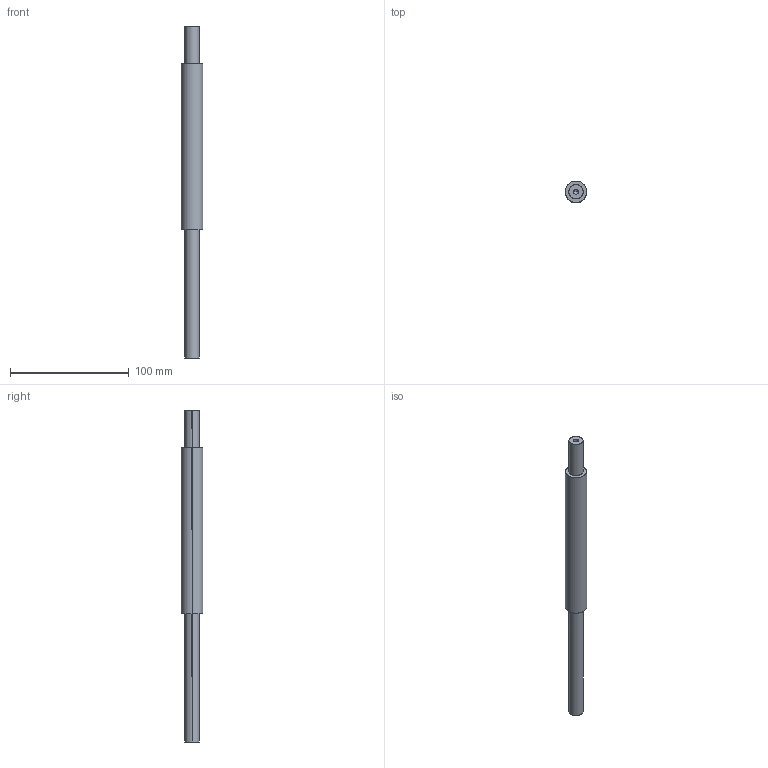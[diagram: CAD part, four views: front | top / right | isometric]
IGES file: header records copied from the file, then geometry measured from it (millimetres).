
Start section: SolidWorks IGES file using analytic representation for surfaces
Global section: file name: 1HE:\work document\磁弹簧\模型图\零件12.IGS; native system: SolidWorks 2016; preprocessor: SolidWorks 2016; author: Admini; date: 200903.172626; units: millimetre
Bounding box: 18 x 18 x 280 mm (x, y, z)
Surface area: 14035.5 mm2 (no closed solid volume)
Topology: 0 solids, 0 shells, 18 faces, 312 edges, 308 vertices
Faces by surface type: revolution 14, bspline 4
